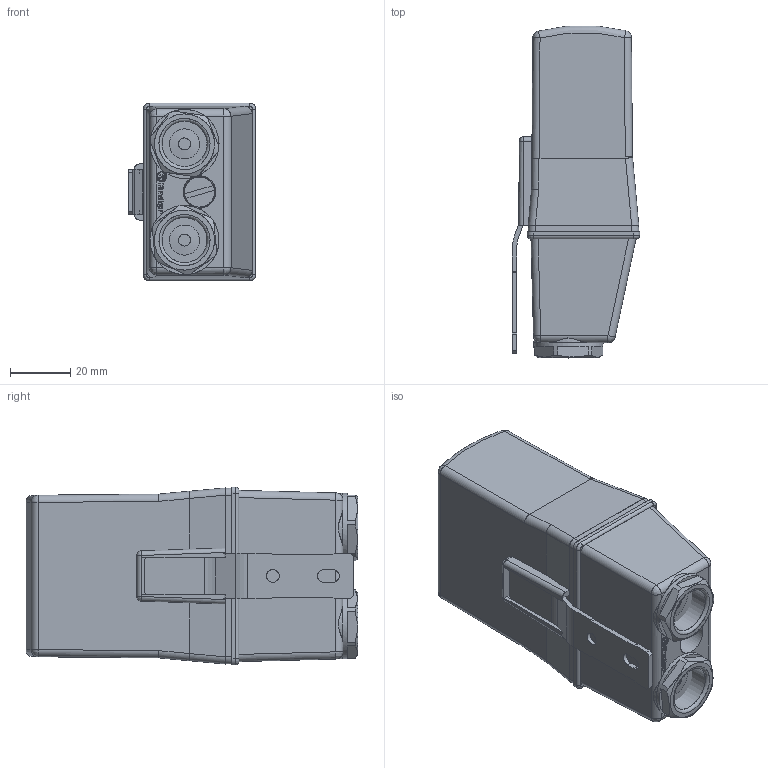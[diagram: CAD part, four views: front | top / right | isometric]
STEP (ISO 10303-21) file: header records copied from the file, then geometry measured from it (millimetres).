
FILE_DESCRIPTION(('STEP AP214'),'2;1');
FILE_NAME('10_42---complessivo_OK.stp','2011-04-07T11:04:39',(''),(''),'2007.1.106','THINKDESIGN','');
FILE_SCHEMA(('AUTOMOTIVE_DESIGN'));
Length unit declared in the file: millimetre
Products named in the file (1): None
Bounding box: 42.4 x 110.42 x 59.2 mm (x, y, z)
Surface area: 26985.4 mm2 (no closed solid volume)
Topology: 0 solids, 0 shells, 267 faces, 1377 edges, 1359 vertices
Faces by surface type: plane 165, cylinder 63, bspline 39
Full cylindrical faces by diameter (mm): 3.307 x1, 4.2 x1, 10 x1, 15 x2, 23 x2
Entity records: 17052 total; most frequent: CARTESIAN_POINT 7230, DIRECTION 1635, COMPOSITE_CURVE_SEGMENT 1367, TRIMMED_CURVE 1045, VECTOR 927, LINE 927, AXIS2_PLACEMENT_3D 354, OUTER_BOUNDARY_CURVE 267
